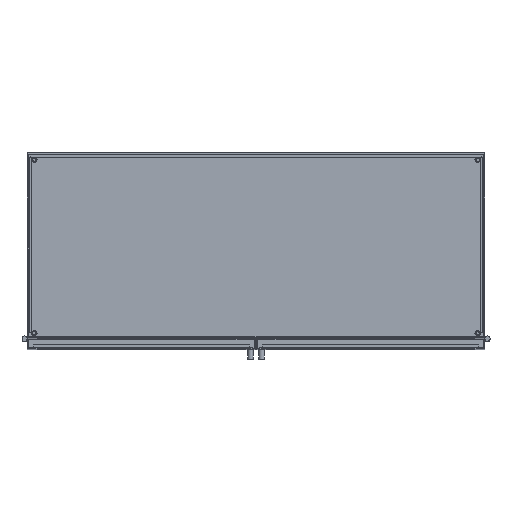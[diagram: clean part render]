
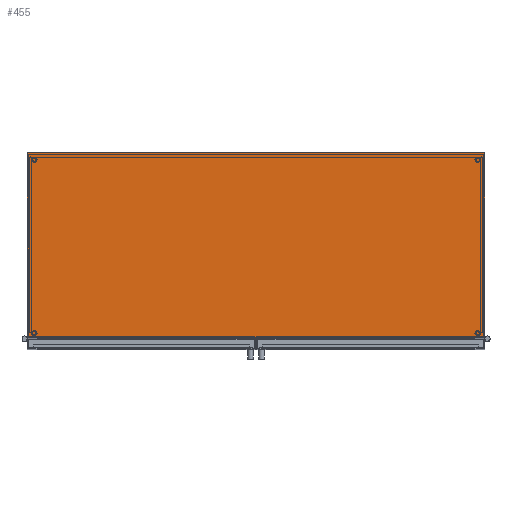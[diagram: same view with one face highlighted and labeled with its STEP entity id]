
A CAD part, top view. The second image highlights one B-rep face of the part: STEP entity #455.
In plain terms, the highlighted planar face has unit normal (0, 0, 1).
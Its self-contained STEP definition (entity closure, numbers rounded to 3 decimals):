
#455=ADVANCED_FACE('',(#1062),#8453,.T.);
#1062=FACE_OUTER_BOUND('',#1691,.T.);
#1691=EDGE_LOOP('',(#2896,#2897,#2898,#2899));
#2896=ORIENTED_EDGE('',*,*,#5074,.T.);
#2897=ORIENTED_EDGE('',*,*,#5078,.T.);
#2898=ORIENTED_EDGE('',*,*,#5073,.T.);
#2899=ORIENTED_EDGE('',*,*,#5075,.T.);
#5073=EDGE_CURVE('',#7458,#7456,#6787,.T.);
#5074=EDGE_CURVE('',#7462,#7460,#6788,.T.);
#5075=EDGE_CURVE('',#7456,#7462,#6789,.T.);
#5078=EDGE_CURVE('',#7460,#7458,#6792,.T.);
#6787=B_SPLINE_CURVE_WITH_KNOTS('',1,(#12392,#12393,#12394,#12395),
 .UNSPECIFIED.,.F.,.F.,(2,1,1,2),(101.,116.,786.,801.),.UNSPECIFIED.);
#6788=B_SPLINE_CURVE_WITH_KNOTS('',1,(#12396,#12397,#12398,#12399),
 .UNSPECIFIED.,.F.,.F.,(2,1,1,2),(101.,116.,786.,801.),.UNSPECIFIED.);
#6789=B_SPLINE_CURVE_WITH_KNOTS('',1,(#12400,#12401,#12402,#12403),
 .UNSPECIFIED.,.F.,.F.,(2,1,1,2),(75.,90.,343.,358.),.UNSPECIFIED.);
#6792=B_SPLINE_CURVE_WITH_KNOTS('',1,(#12412,#12413,#12414,#12415),
 .UNSPECIFIED.,.F.,.F.,(2,1,1,2),(75.,90.,343.,358.),.UNSPECIFIED.);
#7456=VERTEX_POINT('',#12223);
#7458=VERTEX_POINT('',#12225);
#7460=VERTEX_POINT('',#12227);
#7462=VERTEX_POINT('',#12229);
#8453=PLANE('',#8763);
#8763=AXIS2_PLACEMENT_3D('',#12132,#9057,$);
#9057=DIRECTION('',(0.,0.,1.));
#12132=CARTESIAN_POINT('',(350.,300.,1550.));
#12223=CARTESIAN_POINT('',(-350.,300.,1550.));
#12225=CARTESIAN_POINT('',(350.,300.,1550.));
#12227=CARTESIAN_POINT('',(350.,17.,1550.));
#12229=CARTESIAN_POINT('',(-350.,17.,1550.));
#12392=CARTESIAN_POINT('',(350.,300.,1550.));
#12393=CARTESIAN_POINT('',(335.,300.,1550.));
#12394=CARTESIAN_POINT('',(-335.,300.,1550.));
#12395=CARTESIAN_POINT('',(-350.,300.,1550.));
#12396=CARTESIAN_POINT('',(-350.,17.,1550.));
#12397=CARTESIAN_POINT('',(-335.,17.,1550.));
#12398=CARTESIAN_POINT('',(335.,17.,1550.));
#12399=CARTESIAN_POINT('',(350.,17.,1550.));
#12400=CARTESIAN_POINT('',(-350.,300.,1550.));
#12401=CARTESIAN_POINT('',(-350.,285.,1550.));
#12402=CARTESIAN_POINT('',(-350.,32.,1550.));
#12403=CARTESIAN_POINT('',(-350.,17.,1550.));
#12412=CARTESIAN_POINT('',(350.,17.,1550.));
#12413=CARTESIAN_POINT('',(350.,32.,1550.));
#12414=CARTESIAN_POINT('',(350.,285.,1550.));
#12415=CARTESIAN_POINT('',(350.,300.,1550.));
